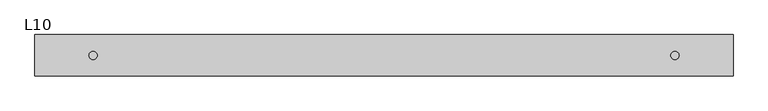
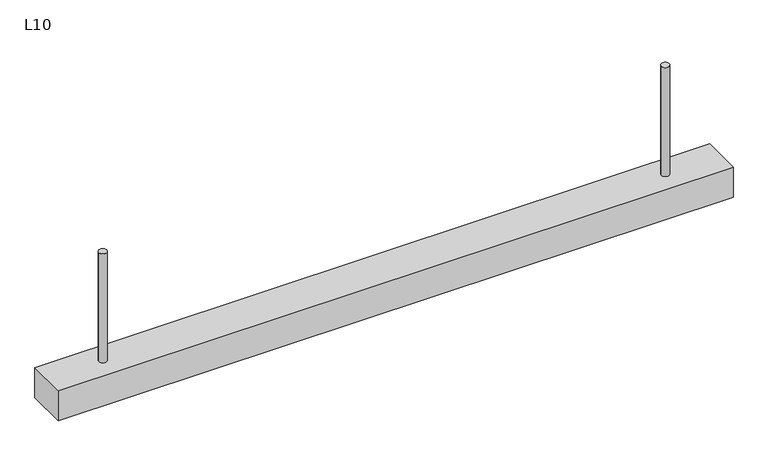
"""IFC4 building model written with IfcOpenShell, lengths in millimetres: light fixture geometry, ZYR_06.02.05 LLuminària Suspesa : L10."""

import ifcopenshell
import ifcopenshell.guid

model = None  # the IFC model being written
_history = None  # IfcOwnerHistory: only IFC2X3 demands one
_inside = {}  # id of a spatial element -> (the spatial element, [elements in it])
_under = {}  # id of a project, library or spatial element -> (it, [spatial elements below it])
_declared = {}  # id of a project -> (the project, [libraries it declares])
_typed = {}  # id of a type object -> (the type object, [elements of that type])
_made_of = {}  # id of a material, layer set ... -> (it, [elements and type objects made of it])


def new_model(schema):
    """Start an empty IFC model of exactly this schema.

    Asked for "IFC4X3", IfcOpenShell would pick the latest addendum, in which some entities
    have other attributes; the version numbers below select the first issue.
    IFC2X3 requires an IfcOwnerHistory on every rooted entity: one is made here for all.
    """
    global model, _history
    if schema == "IFC4X3":
        model = ifcopenshell.file(schema_version=(4, 3, 0, 0))
    else:
        model = ifcopenshell.file(schema=schema)
    _inside.clear()
    _under.clear()
    _declared.clear()
    _typed.clear()
    _made_of.clear()
    _history = None
    if model.schema == "IFC2X3":
        org = make("IfcOrganization", Name="unknown")
        user = make(
            "IfcPersonAndOrganization",
            ThePerson=make("IfcPerson", FamilyName="unknown"),
            TheOrganization=org,
        )
        app = make(
            "IfcApplication",
            ApplicationDeveloper=org,
            Version="unknown",
            ApplicationFullName="unknown",
            ApplicationIdentifier="unknown",
        )
        _history = make(
            "IfcOwnerHistory",
            OwningUser=user,
            OwningApplication=app,
            ChangeAction="ADDED",
            CreationDate=0,
        )
    return model


def make(cls, **values):
    """One entity of the class cls with the attributes given. An attribute that is None is left unset."""
    return model.create_entity(
        cls, **{name: value for name, value in values.items() if value is not None}
    )


def rooted(cls, **values):
    """An entity with a GlobalId (a new one), such as an element, a storey or a relation."""
    return make(cls, GlobalId=ifcopenshell.guid.new(), OwnerHistory=_history, **values)


def si_unit(unit_type, name, prefix=None):
    """IfcSIUnit, for example si_unit("LENGTHUNIT", "METRE", prefix="MILLI")."""
    return make("IfcSIUnit", UnitType=unit_type, Prefix=prefix, Name=name)


def assignment(units):
    """IfcUnitAssignment: the units of a project."""
    return None if units is None else make("IfcUnitAssignment", Units=units)


def point(xyz):
    """IfcCartesianPoint."""
    return None if xyz is None else make("IfcCartesianPoint", Coordinates=xyz)


def direction(xyz):
    """IfcDirection."""
    return None if xyz is None else make("IfcDirection", DirectionRatios=xyz)


def frame(location, z_axis=None, x_axis=None):
    """IfcAxis2Placement3D, a coordinate frame: its origin and axes. An axis left out is left unset."""
    return make(
        "IfcAxis2Placement3D",
        Location=point(location),
        Axis=direction(z_axis),
        RefDirection=direction(x_axis),
    )


def frame_2d(location, x_axis=None):
    """IfcAxis2Placement2D, a coordinate frame in the plane: its origin and x axis."""
    return make(
        "IfcAxis2Placement2D", Location=point(location), RefDirection=direction(x_axis)
    )


def origin():
    """The frame at (0, 0, 0) with its axes left unset."""
    return frame((0.0, 0.0, 0.0))


def origin_with_axes():
    """The frame at (0, 0, 0) with the z axis (0, 0, 1) and the x axis (1, 0, 0) written out."""
    return frame((0.0, 0.0, 0.0), z_axis=(0.0, 0.0, 1.0), x_axis=(1.0, 0.0, 0.0))


def place(relative_to, where):
    """IfcLocalPlacement: puts the frame where relative to a parent placement (None: the world)."""
    return make(
        "IfcLocalPlacement", PlacementRelTo=relative_to, RelativePlacement=where
    )


def context(
    kind, dimensions, precision=None, world=None, true_north=None, identifier=None
):
    """IfcGeometricRepresentationContext, for example the 3D "Model" context."""
    return make(
        "IfcGeometricRepresentationContext",
        ContextIdentifier=identifier,
        ContextType=kind,
        CoordinateSpaceDimension=dimensions,
        Precision=precision,
        WorldCoordinateSystem=world,
        TrueNorth=true_north,
    )


def project(units=None, contexts=None):
    """IfcProject with its units and contexts."""
    return rooted(
        "IfcProject",
        Name="project",
        RepresentationContexts=contexts,
        UnitsInContext=assignment(units),
    )


def spatial(cls, under=None, at=None, **own):
    """A site, building, storey or space (cls), placed at a placement, below another one or the project."""
    s = rooted(cls, ObjectPlacement=at, **own)
    if under is not None:
        _under.setdefault(under.id(), (under, []))[1].append(s)
    return s


def polyline(points):
    """IfcPolyline through the points."""
    return make("IfcPolyline", Points=[point(p) for p in points])


def circle_curve(where, radius):
    """IfcCircle in the frame where."""
    return make("IfcCircle", Position=where, Radius=radius)


def trimmed(basis, trim1, trim2, sense, master):
    """IfcTrimmedCurve: the piece of a basis curve between two trims."""
    return make(
        "IfcTrimmedCurve",
        BasisCurve=basis,
        Trim1=trim1,
        Trim2=trim2,
        SenseAgreement=sense,
        MasterRepresentation=master,
    )


def segment(curve, same_sense, transition):
    """IfcCompositeCurveSegment."""
    return make(
        "IfcCompositeCurveSegment",
        Transition=transition,
        SameSense=same_sense,
        ParentCurve=curve,
    )


def composite_curve(segments, self_intersect=None):
    """IfcCompositeCurve: segments joined end to end."""
    return make("IfcCompositeCurve", Segments=segments, SelfIntersect=self_intersect)


def outline(outer, holes=None, kind="AREA"):
    """IfcArbitraryClosedProfileDef: a profile drawn as a closed curve; with holes, ...WithVoids."""
    if holes is None:
        return make("IfcArbitraryClosedProfileDef", ProfileType=kind, OuterCurve=outer)
    return make(
        "IfcArbitraryProfileDefWithVoids",
        ProfileType=kind,
        OuterCurve=outer,
        InnerCurves=holes,
    )


def extrude(swept, where, along, depth):
    """IfcExtrudedAreaSolid: the profile swept, set in the frame where, extruded along a direction by depth."""
    return make(
        "IfcExtrudedAreaSolid",
        SweptArea=swept,
        Position=where,
        ExtrudedDirection=direction(along),
        Depth=depth,
    )


def shape(context_of_items, identifier, shape_type, items):
    """IfcShapeRepresentation: the items that make up one representation, for example the "Body"."""
    return make(
        "IfcShapeRepresentation",
        ContextOfItems=context_of_items,
        RepresentationIdentifier=identifier,
        RepresentationType=shape_type,
        Items=items,
    )


def source(mapping_origin, context_of_items, identifier, shape_type, items):
    """IfcRepresentationMap: a shape defined once, which mapped items show again and again."""
    return make(
        "IfcRepresentationMap",
        MappingOrigin=mapping_origin,
        MappedRepresentation=shape(context_of_items, identifier, shape_type, items),
    )


def transform(
    local_origin,
    x_axis=None,
    y_axis=None,
    z_axis=None,
    scale=None,
    scale2=None,
    scale3=None,
    uniform=True,
):
    """IfcCartesianTransformationOperator3D, or its non-uniform kind. x_axis, y_axis, z_axis: its Axis1, 2, 3."""
    if uniform:
        return make(
            "IfcCartesianTransformationOperator3D",
            Axis1=direction(x_axis),
            Axis2=direction(y_axis),
            LocalOrigin=point(local_origin),
            Scale=scale,
            Axis3=direction(z_axis),
        )
    return make(
        "IfcCartesianTransformationOperator3DnonUniform",
        Axis1=direction(x_axis),
        Axis2=direction(y_axis),
        LocalOrigin=point(local_origin),
        Scale=scale,
        Axis3=direction(z_axis),
        Scale2=scale2,
        Scale3=scale3,
    )


def mapped(mapping_source, mapping_target):
    """IfcMappedItem: shows the shape of a source again, moved by a transform."""
    return make(
        "IfcMappedItem", MappingSource=mapping_source, MappingTarget=mapping_target
    )


def made_of(thing, what):
    """Note that an element or type object is made of a material, layer set ...; save() writes the relation."""
    if what is not None:
        _made_of.setdefault(what.id(), (what, []))[1].append(thing)
    return thing


def element(
    cls,
    number,
    at=None,
    inside=None,
    cuts=None,
    type_object=None,
    material=None,
    context=None,
    identifier="Body",
    shape_type=None,
    held_by="IfcProductDefinitionShape",
    body=None,
    shapes=None,
    **own,
):
    """One element of the class cls, such as IfcWall. Its Tag is "e" and its number.

    at: its placement. inside: the storey or other place that contains it. cuts: it is an
    opening in that element (IfcRelVoidsElement). A single representation is given by context,
    identifier, shape_type and body (its items); several are given by shapes. held_by: the class
    of the entity that holds the representations. save() writes the other relations.
    """
    e = rooted(cls, Tag="e%d" % number, ObjectPlacement=at, **own)
    if body is not None:
        shapes = [shape(context, identifier, shape_type, body)]
    if shapes is not None:
        e.Representation = make(held_by, Representations=shapes)
    if inside is not None:
        _inside.setdefault(inside.id(), (inside, []))[1].append(e)
    if cuts is not None:
        rooted(
            "IfcRelVoidsElement", RelatingBuildingElement=cuts, RelatedOpeningElement=e
        )
    if type_object is not None:
        _typed.setdefault(type_object.id(), (type_object, []))[1].append(e)
    return made_of(e, material)


def aggregate(whole, parts):
    """IfcRelAggregates: a whole, such as a stair, and the parts it consists of."""
    return rooted("IfcRelAggregates", RelatingObject=whole, RelatedObjects=parts)


def save(model, path):
    """Write the relations noted so far, then the file.

    IfcRelAggregates (storeys below a building ...), IfcRelContainedInSpatialStructure (elements
    in a storey), IfcRelDefinesByType, IfcRelAssociatesMaterial and IfcRelDeclares: one each for
    every whole, place, type object, material and project.
    """
    for whole, parts in _under.values():
        aggregate(whole, parts)
    for where, things in _inside.values():
        rooted(
            "IfcRelContainedInSpatialStructure",
            RelatedElements=things,
            RelatingStructure=where,
        )
    for kind, things in _typed.values():
        rooted("IfcRelDefinesByType", RelatedObjects=things, RelatingType=kind)
    for what, things in _made_of.values():
        rooted("IfcRelAssociatesMaterial", RelatedObjects=things, RelatingMaterial=what)
    for by, libraries in _declared.values():
        rooted("IfcRelDeclares", RelatingContext=by, RelatedDefinitions=libraries)
    model.write(path)


def l10_3d708f18(model_context):
    return source(origin(), model_context, "Body", "SweptSolid", [
        extrude(outline(polyline([(840.0, 50.0), (840.0, -50.0), (-840.0, -50.0), (-840.0, 50.0), (840.0, 50.0)])), origin_with_axes(), (0.0, 0.0, 1.0), 80.0),
        extrude(outline(composite_curve([segment(trimmed(circle_curve(frame_2d((-700.0, 0.0)), 10.0), [point((-710.0, 0.0))], [point((-690.0, 0.0))], False, "CARTESIAN"), True, "CONTINUOUS"), segment(trimmed(circle_curve(frame_2d((-700.0, 0.0)), 10.0), [point((-690.0, 0.0))], [point((-710.0, 0.0))], False, "CARTESIAN"), True, "CONTINUOUS")], self_intersect=False)), frame((0.0, 0.0, 80.0), z_axis=(0.0, 0.0, 1.0), x_axis=(1.0, 0.0, 0.0)), (0.0, 0.0, 1.0), 287.0),
        extrude(outline(composite_curve([segment(trimmed(circle_curve(frame_2d((700.0, 0.0)), 10.0), [point((690.0, 0.0))], [point((710.0, 0.0))], False, "CARTESIAN"), True, "CONTINUOUS"), segment(trimmed(circle_curve(frame_2d((700.0, 0.0)), 10.0), [point((710.0, 0.0))], [point((690.0, 0.0))], False, "CARTESIAN"), True, "CONTINUOUS")], self_intersect=False)), frame((0.0, 0.0, 80.0), z_axis=(0.0, 0.0, 1.0), x_axis=(1.0, 0.0, 0.0)), (0.0, 0.0, 1.0), 287.0),
    ])


if __name__ == "__main__":
    model = new_model("IFC4")
    model_context = context("Model", 3, world=origin())
    ifc_project = project(units=[si_unit("LENGTHUNIT", "METRE", prefix="MILLI")], contexts=[model_context])
    site = spatial("IfcSite", under=ifc_project)
    building = spatial("IfcBuilding", under=site)
    placement = place(None, origin())
    l10_shape = l10_3d708f18(model_context)
    element("IfcLightFixture", 1, ObjectType="ZYR_06.02.05 LLuminària Suspesa : L10", at=placement, inside=building, context=model_context, shape_type="MappedRepresentation", body=[
        mapped(l10_shape, transform((0.0, 0.0, 0.0), x_axis=(1.0, 0.0, 0.0), y_axis=(0.0, 1.0, 0.0), z_axis=(0.0, 0.0, 1.0))),
    ])
    save(model, "model.ifc")
